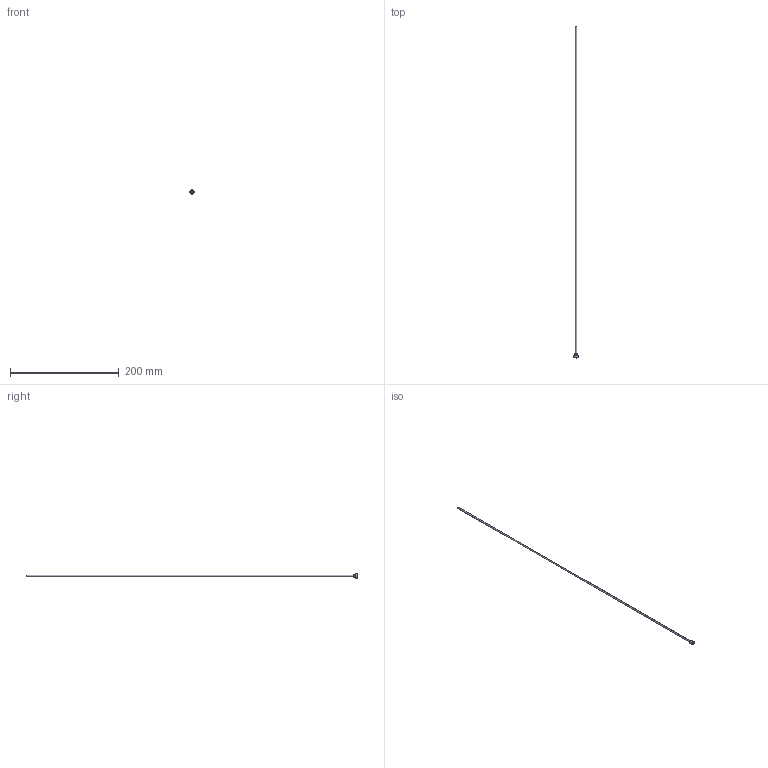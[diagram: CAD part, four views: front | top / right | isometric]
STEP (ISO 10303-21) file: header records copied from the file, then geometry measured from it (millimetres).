
FILE_DESCRIPTION(/* description */ (''),/* implementation_level */ '2;1');
FILE_NAME(/* name */ 'C:/Users/drich/Desktop/PT16-109-24 v1.step',/* time_stamp */ '2019-12-27T15:17:24-06:00',/* author */ (''),/* organization */ (''),/* preprocessor_version */ 'ST-DEVELOPER v18',/* originating_system */ 'Autodesk Translation Framework v8.12.0.6',/* authorisation */ '');
FILE_SCHEMA (('AUTOMOTIVE_DESIGN { 1 0 10303 214 3 1 1 }'));
Length unit declared in the file: inch
Products named in the file (1): PT16-109-24
Bounding box: 7.62 x 609.6 x 7.62 mm (x, y, z)
Volume: 1098 mm3; surface area: 10110.4 mm2
Topology: 1 solids, 1 shells, 19 faces, 48 edges, 34 vertices
Faces by surface type: plane 11, cylinder 4, torus 2, cone 2
Full cylindrical faces by diameter (mm): 2.413 x1, 2.769 x1, 4.724 x1, 7.616 x1
Entity records: 633 total; most frequent: DIRECTION 112, CARTESIAN_POINT 102, ORIENTED_EDGE 96, EDGE_CURVE 48, AXIS2_PLACEMENT_3D 44, VERTEX_POINT 34, CIRCLE 24, EDGE_LOOP 24
